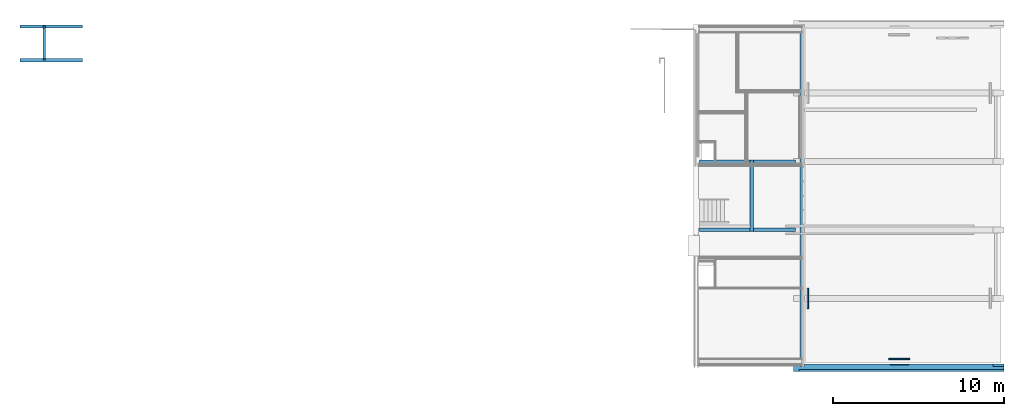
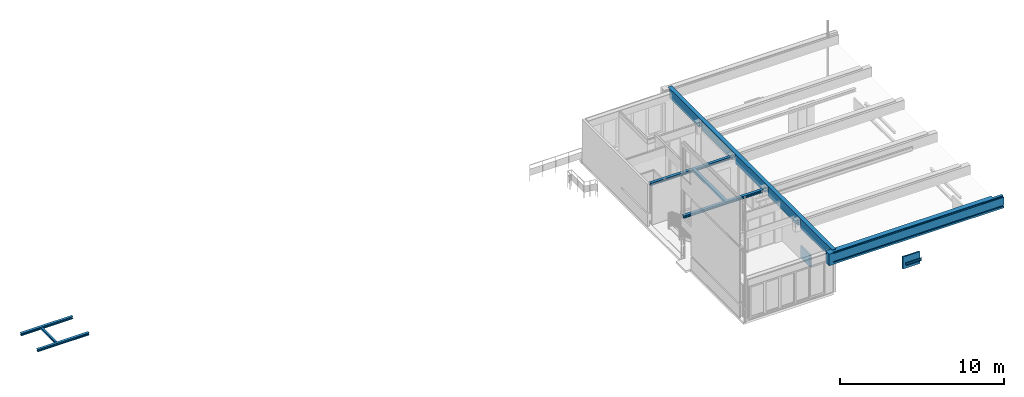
# One storey, part 1 of 13: 11 beams, 4 openings.
"""IFC2X3 building model written with IfcOpenShell, lengths in millimetres."""

from ifc_helpers import new_model, entity, si_unit, converted_unit, derived_unit, money_unit, direction, frame, origin_with_axes, place, context, subcontext, project, spatial, faceted_brep, material, type_object, element, save


model = new_model("IFC2X3")

# Units and contexts
model_context = context("Model", 3, precision=0.01, world=origin_with_axes(), true_north=direction((0.0, 1.0)))
body_context = subcontext(model_context, "Body", "Model", "MODEL_VIEW")
ifc_project = project(units=[si_unit("LENGTHUNIT", "METRE", prefix="MILLI"), si_unit("AREAUNIT", "SQUARE_METRE"), si_unit("VOLUMEUNIT", "CUBIC_METRE"), converted_unit("PLANEANGLEUNIT", "DEGREE", entity("IfcPlaneAngleMeasure", 0.0174532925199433), si_unit("PLANEANGLEUNIT", "RADIAN"), dimensions=[0, 0, 0, 0, 0, 0, 0]), money_unit("EUR"), converted_unit("TIMEUNIT", "Year", entity("IfcTimeMeasure", 31557600.0), si_unit("TIMEUNIT", "SECOND"), dimensions=[0, 0, 1, 0, 0, 0, 0]), si_unit("MASSUNIT", "GRAM", prefix="KILO"), si_unit("THERMODYNAMICTEMPERATUREUNIT", "DEGREE_CELSIUS"), si_unit("LUMINOUSINTENSITYUNIT", "LUMEN"), si_unit("ENERGYUNIT", "JOULE", prefix="MEGA"), derived_unit("THERMALCONDUCTANCEUNIT", [(si_unit("POWERUNIT", "WATT"), 1), (si_unit("LENGTHUNIT", "METRE"), -1), (si_unit("THERMODYNAMICTEMPERATUREUNIT", "KELVIN"), -1)]), derived_unit("SPECIFICHEATCAPACITYUNIT", [(si_unit("ENERGYUNIT", "JOULE"), 1), (si_unit("MASSUNIT", "GRAM", prefix="KILO"), -1), (si_unit("THERMODYNAMICTEMPERATUREUNIT", "KELVIN"), -1)]), derived_unit("MASSDENSITYUNIT", [(si_unit("MASSUNIT", "GRAM", prefix="KILO"), 1), (si_unit("VOLUMEUNIT", "CUBIC_METRE"), -1)])], contexts=[model_context])

# Site, building, storey
site_placement = place(None, origin_with_axes())
site = spatial("IfcSite", under=ifc_project, at=site_placement, Name="<site naam>", CompositionType="ELEMENT")
building_placement = place(site_placement, origin_with_axes())
building = spatial("IfcBuilding", under=site, at=building_placement, Name="<Naam gebouw>", CompositionType="ELEMENT")
storey_placement = place(building_placement, frame((0.0, 0.0, 3188.0), z_axis=(0.0, 0.0, 1.0), x_axis=(1.0, 0.0, 0.0)))
storey = spatial("IfcBuildingStorey", under=building, at=storey_placement, Name="01 1e tussenverdieping", CompositionType="ELEMENT", Elevation=3188.0)

# Beam
ifc_material_1 = material(Name="staal C")
beam_type_1 = type_object("IfcBeamType", Name="Profiel H algemeen 140 x 133", PredefinedType="BEAM")
beam_1_placement = place(storey_placement, frame((13894.99999999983, 19900.00000799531, 845.4993932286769), z_axis=(0.0, 0.0, 1.0), x_axis=(-1.0, 0.0, 0.0)))
element("IfcBeam", 1, at=beam_1_placement, inside=storey, type_object=beam_type_1, material=ifc_material_1, Name="28_Balk_Profiel", ObjectType="BEAM", context=body_context, shape_type="Brep", body=[
    faceted_brep([(70.00000000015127, 95.39873896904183, 66.50062088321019), (70.00000000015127, 1895.398734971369, 66.50062088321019), (-70.00000000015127, 1895.398734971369, 66.50062088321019), (-70.00000000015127, 95.39873896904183, 66.50062088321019), (70.00000000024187, 95.39873697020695, 58.00060676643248), (70.00000000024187, 1895.398734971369, 58.00060676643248), (-2.750000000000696, 1895.398734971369, 58.00060676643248), (-70.00000000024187, 1895.398734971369, 58.00060676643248), (2.74999999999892, 1895.398734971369, 58.00060676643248), (2.74999999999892, 1895.398736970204, 57.00051043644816), (-2.750000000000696, 1895.398736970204, 57.00051043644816), (-70.00000000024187, 95.39873697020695, 58.00060676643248), (2.750000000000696, 95.39873697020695, 58.00060676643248), (-2.750000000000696, 95.39873697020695, 58.00060676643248), (-2.750000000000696, 95.39873697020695, 57.00051043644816), (2.74999999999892, 95.39873697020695, 57.00051043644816), (2.74999999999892, 1980.000015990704, 57.00051043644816), (2.74999999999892, 8.398728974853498, 57.00051043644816), (2.750000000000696, 8.398728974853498, -58.00060676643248), (2.74999999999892, 1980.000015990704, -58.00060676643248), (-2.750000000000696, 1980.000015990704, 57.00051043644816), (-2.750000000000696, 1980.000015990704, -58.00060676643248), (-2.750000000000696, 8.398728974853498, -58.00060676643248), (-2.750000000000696, 8.398728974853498, 57.00051043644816), (-70.00000000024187, 8.398728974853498, -58.00060676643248), (-70.00000000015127, 8.398728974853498, -66.50060677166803), (70.00000000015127, 8.398728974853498, -66.50060677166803), (70.00000000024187, 8.398728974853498, -58.00060676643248), (70.00000000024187, 1980.000015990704, -58.00060676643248), (70.00000000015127, 1980.000015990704, -66.50060677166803), (-70.00000000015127, 1980.000015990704, -66.50060677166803), (-70.00000000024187, 1980.000015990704, -58.00060676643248)], [[[0, 1, 2, 3]], [[4, 5, 1, 0]], [[6, 7, 2, 1, 5, 8, 9, 10]], [[3, 2, 7, 11]], [[12, 4, 0, 3, 11, 13, 14, 15]], [[12, 8, 5, 4]], [[11, 7, 6, 13]], [[16, 9, 8, 12, 15, 17, 18, 19]], [[16, 20, 10, 9]], [[6, 10, 20, 21, 22, 23, 14, 13]], [[17, 15, 14, 23]], [[17, 23, 22, 24, 25, 26, 27, 18]], [[28, 19, 18, 27]], [[21, 20, 16, 19, 28, 29, 30, 31]], [[21, 31, 24, 22]], [[31, 30, 25, 24]], [[30, 29, 26, 25]], [[29, 28, 27, 26]]]),
    faceted_brep([(-2.750000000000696, 0.0, -58.00060676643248), (-2.750000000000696, 2.39872897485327, -58.00060676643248), (-70.00000000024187, 2.39872897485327, -58.00060676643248), (-70.00000000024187, 0.0, -58.00060676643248), (-2.750000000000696, 0.0, 57.00051043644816), (-2.750000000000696, 2.39872897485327, 57.00051043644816), (70.00000000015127, 2.39872897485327, -66.50060677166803), (-70.00000000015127, 2.39872897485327, -66.50060677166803), (2.74999999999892, 2.39872897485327, 57.00051043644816), (2.750000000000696, 2.39872897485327, -58.00060676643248), (70.00000000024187, 2.39872897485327, -58.00060676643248), (-70.00000000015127, 0.0, -66.50060677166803), (2.750000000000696, 0.0, -58.00060676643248), (2.750000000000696, 0.0, 57.00051043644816), (70.00000000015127, 0.0, -66.50060677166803), (70.00000000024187, 0.0, -58.00060676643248)], [[[0, 1, 2, 3]], [[4, 5, 1, 0]], [[6, 7, 2, 1, 5, 8, 9, 10]], [[3, 2, 7, 11]], [[12, 13, 4, 0, 3, 11, 14, 15]], [[8, 5, 4, 13]], [[11, 7, 6, 14]], [[9, 8, 13, 12]], [[15, 10, 9, 12]], [[14, 6, 10, 15]]]),
])

# Beam, openings
ifc_material_2 = material(Name="beton_gewapend C")
beam_type_2 = type_object("IfcBeamType", Name="beton_gewapend C 280 x 700", PredefinedType="BEAM")
beam_2_placement = place(storey_placement, frame((58325.00000000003, 19999.99999999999, 3187.0), z_axis=(0.0, 0.0, 1.0), x_axis=(-1.0, 0.0, 0.0)))
beam_2 = element("IfcBeam", 2, at=beam_2_placement, inside=storey, type_object=beam_type_2, material=ifc_material_2, Name="28_Balk_beton_gewapend", ObjectType="BEAM", context=body_context, shape_type="Brep", body=[
    faceted_brep([(0.0, 4970.499999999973, -700.0000000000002), (0.0, 4174.999999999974, -700.0000000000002), (0.0, 4174.999999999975, -30.00000000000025), (0.0, 3824.999999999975, -30.00000000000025), (0.0, 3824.999999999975, -700.0000000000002), (0.0, 175.0000000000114, -700.0000000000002), (0.0, 175.0000000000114, -30.00000000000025), (0.0, 0.0, -30.00000000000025), (0.0, 0.0, 0.0), (0.0, 19989.08932188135, 0.0), (0.0, 19989.08932188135, -30.00000000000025), (0.0, 19824.99999999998, -30.00000000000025), (0.0, 19824.99999999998, -700.0000000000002), (0.0, 16174.99999999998, -700.0000000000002), (0.0, 16174.99999999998, -30.00000000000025), (0.0, 15824.99999999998, -30.00000000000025), (0.0, 15824.99999999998, -700.0000000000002), (0.0, 12174.99999999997, -700.0000000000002), (0.0, 12174.99999999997, -30.00000000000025), (0.0, 11824.99999999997, -30.00000000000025), (0.0, 11824.99999999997, -700.0000000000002), (0.0, 8174.999999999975, -700.0000000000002), (0.0, 8174.999999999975, -30.00000000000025), (0.0, 7824.999999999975, -30.00000000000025), (0.0, 7824.999999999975, -700.0000000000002), (0.0, 4979.999999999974, -700.0000000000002), (0.0, 4979.999999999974, -676.000000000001), (0.0, 5085.249999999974, -676.000000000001), (0.0, 5085.249999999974, -660.000000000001), (0.0, 4865.249999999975, -660.000000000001), (0.0, 4865.249999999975, -676.000000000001), (0.0, 4970.499999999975, -676.000000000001), (280.0000000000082, 7824.999999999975, -700.0000000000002), (280.0000000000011, 4174.999999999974, -700.0000000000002), (7.217155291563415, 4970.499999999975, -700.0000000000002), (7.217155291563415, 4979.999999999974, -700.0000000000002), (280.0000000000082, 4174.999999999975, -30.00000000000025), (280.0000000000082, 3824.999999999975, -30.00000000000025), (280.0000000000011, 3824.999999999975, -700.0000000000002), (280.0000000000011, 175.0000000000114, -700.0000000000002), (280.0000000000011, 175.0000000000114, -30.00000000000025), (280.0000000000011, 0.0, -30.00000000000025), (280.0000000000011, 0.0, 0.0), (280.0000000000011, 19989.08932188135, 0.0), (280.0000000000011, 19989.08932188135, -30.00000000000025), (280.0000000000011, 19824.99999999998, -30.00000000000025), (280.0000000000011, 19824.99999999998, -700.0000000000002), (280.0000000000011, 16174.99999999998, -700.0000000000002), (280.0000000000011, 16174.99999999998, -30.00000000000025), (280.0000000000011, 15824.99999999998, -30.00000000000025), (280.0000000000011, 15824.99999999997, -700.0000000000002), (280.0000000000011, 12174.99999999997, -700.0000000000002), (280.0000000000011, 12174.99999999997, -30.00000000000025), (280.0000000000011, 11824.99999999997, -30.00000000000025), (280.0000000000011, 11824.99999999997, -700.0000000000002), (280.0000000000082, 8174.999999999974, -700.0000000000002), (280.0000000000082, 8174.999999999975, -30.00000000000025), (280.0000000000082, 7824.999999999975, -30.00000000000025), (7.217155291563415, 4979.999999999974, -676.000000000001), (7.217155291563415, 5085.249999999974, -676.000000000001), (7.217155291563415, 5085.249999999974, -660.000000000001), (7.217155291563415, 4865.249999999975, -660.000000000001), (7.217155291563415, 4865.249999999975, -676.000000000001), (7.217155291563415, 4970.499999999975, -676.000000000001)], [[[0, 1, 2, 3, 4, 5, 6, 7, 8, 9, 10, 11, 12, 13, 14, 15, 16, 17, 18, 19, 20, 21, 22, 23, 24, 25, 26, 27, 28, 29, 30, 31]], [[32, 33, 1, 0, 34, 35, 25, 24]], [[36, 2, 1, 33]], [[37, 3, 2, 36]], [[38, 4, 3, 37]], [[5, 4, 38, 39]], [[39, 40, 6, 5]], [[6, 40, 41, 7]], [[42, 8, 7, 41]], [[43, 9, 8, 42]], [[43, 44, 10, 9]], [[45, 11, 10, 44]], [[46, 12, 11, 45]], [[47, 13, 12, 46]], [[14, 13, 47, 48]], [[15, 14, 48, 49]], [[16, 15, 49, 50]], [[17, 16, 50, 51]], [[17, 51, 52, 18]], [[18, 52, 53, 19]], [[19, 53, 54, 20]], [[20, 54, 55, 21]], [[55, 56, 22, 21]], [[56, 57, 23, 22]], [[57, 32, 24, 23]], [[25, 35, 58, 26]], [[26, 58, 59, 27]], [[27, 59, 60, 28]], [[28, 60, 61, 29]], [[29, 61, 62, 30]], [[30, 62, 63, 31]], [[31, 63, 34, 0]], [[37, 36, 33, 32, 57, 56, 55, 54, 53, 52, 51, 50, 49, 48, 47, 46, 45, 44, 43, 42, 41, 40, 39, 38]], [[34, 63, 62, 61, 60, 59, 58, 35]]]),
])
opening_1_placement = place(beam_2_placement, frame((58325.00000000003, 19999.99999999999, -6375.0), z_axis=(0.0, 0.0, 1.0), x_axis=(-1.0, 0.0, 0.0)))
element("IfcOpeningElement", 3, at=opening_1_placement, cuts=beam_2, Name="28_pompput_", context=body_context, shape_type="Brep", body=[
    faceted_brep([(58275.00000000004, 10310.00000000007, 5780.0), (58275.00000000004, 10310.00000000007, 5905.0), (58605.00000000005, 10310.00000000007, 5905.0), (58605.00000000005, 10310.00000000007, 5780.0), (58275.00000000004, 9690.000000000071, 5780.0), (58275.00000000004, 9690.000000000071, 5905.0), (58605.00000000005, 9690.000000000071, 5905.0), (58605.00000000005, 9690.000000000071, 5780.0)], [[[0, 1, 2, 3]], [[0, 4, 5, 1]], [[1, 5, 6, 2]], [[3, 2, 6, 7]], [[4, 0, 3, 7]], [[5, 4, 7, 6]]]),
])
opening_2_placement = place(beam_2_placement, frame((58325.00000000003, 19999.99999999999, -6375.0), z_axis=(0.0, 0.0, 1.0), x_axis=(-1.0, 0.0, 0.0)))
element("IfcOpeningElement", 4, at=opening_2_placement, cuts=beam_2, Name="28_pompput_", context=body_context, shape_type="Brep", body=[
    faceted_brep([(58275.00000000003, 6310.000000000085, 5780.0), (58275.00000000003, 6310.000000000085, 5905.0), (58605.00000000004, 6310.000000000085, 5905.0), (58605.00000000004, 6310.000000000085, 5780.0), (58275.00000000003, 5690.000000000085, 5780.0), (58275.00000000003, 5690.000000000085, 5905.0), (58605.00000000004, 5690.000000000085, 5905.0), (58605.00000000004, 5690.000000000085, 5780.0)], [[[0, 1, 2, 3]], [[0, 4, 5, 1]], [[1, 5, 6, 2]], [[3, 2, 6, 7]], [[4, 0, 3, 7]], [[5, 4, 7, 6]]]),
])
opening_3_placement = place(beam_2_placement, frame((58325.00000000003, 19999.99999999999, -6375.0), z_axis=(0.0, 0.0, 1.0), x_axis=(-1.0, 0.0, 0.0)))
element("IfcOpeningElement", 5, at=opening_3_placement, cuts=beam_2, Name="28_pompput_", context=body_context, shape_type="Brep", body=[
    faceted_brep([(58275.00000000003, 2310.000000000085, 5780.0), (58275.00000000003, 2310.000000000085, 5905.0), (58605.00000000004, 2310.000000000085, 5905.0), (58605.00000000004, 2310.000000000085, 5780.0), (58275.00000000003, 1690.000000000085, 5780.0), (58275.00000000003, 1690.000000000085, 5905.0), (58605.00000000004, 1690.000000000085, 5905.0), (58605.00000000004, 1690.000000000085, 5780.0)], [[[0, 1, 2, 3]], [[0, 4, 5, 1]], [[1, 5, 6, 2]], [[3, 2, 6, 7]], [[4, 0, 3, 7]], [[5, 4, 7, 6]]]),
])
opening_4_placement = place(beam_2_placement, frame((58325.00000000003, 19999.99999999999, -6375.0), z_axis=(0.0, 0.0, 1.0), x_axis=(-1.0, 0.0, 0.0)))
element("IfcOpeningElement", 6, at=opening_4_placement, cuts=beam_2, Name="28_pompput_", context=body_context, shape_type="Brep", body=[
    faceted_brep([(58275.00000000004, 14310.00000000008, 5780.0), (58275.00000000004, 14310.00000000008, 5905.0), (58605.00000000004, 14310.00000000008, 5905.0), (58605.00000000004, 14310.00000000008, 5780.0), (58275.00000000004, 13690.00000000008, 5780.0), (58275.00000000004, 13690.00000000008, 5905.0), (58605.00000000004, 13690.00000000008, 5905.0), (58605.00000000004, 13690.00000000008, 5780.0)], [[[0, 1, 2, 3]], [[0, 4, 5, 1]], [[1, 5, 6, 2]], [[3, 2, 6, 7]], [[4, 0, 3, 7]], [[5, 4, 7, 6]]]),
])

# Beams
beam_type_3 = type_object("IfcBeamType", Name="beton_gewapend C 440 x 850", PredefinedType="BEAM")
beam_3_placement = place(storey_placement, frame((57675.00000000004, 175.0000000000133, 3157.0), z_axis=(0.0, 0.0, 1.0), x_axis=(0.0, -1.0, 0.0)))
element("IfcBeam", 7, at=beam_3_placement, inside=storey, type_object=beam_type_3, material=ifc_material_2, Name="28_Balk_beton_gewapend", ObjectType="BEAM", context=body_context, shape_type="Brep", body=[
    faceted_brep([(0.0, 11649.99999999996, -30.00000000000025), (0.0, 649.9999999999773, -30.00000000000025), (0.0, 649.9999999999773, -150.0000000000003), (0.0, 12299.99999999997, -150.0000000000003), (0.0, 12299.99999999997, -850.0000000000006), (0.0, 0.0, -850.0000000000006), (0.0, 0.0, -180.0000000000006), (0.0, 369.9997832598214, -180.0000000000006), (0.0, 369.9997832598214, -30.00000000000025), (0.0, 0.0, -30.00000000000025), (0.0, 0.0, 0.0), (0.0, 11649.99999999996, 0.0), (164.0893218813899, 649.9999999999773, -30.00000000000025), (164.0893218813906, 11649.99999999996, -30.00000000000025), (164.0893218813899, 649.9999999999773, -150.0000000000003), (164.0893218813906, 12299.99999999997, -150.0000000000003), (164.0893218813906, 12299.99999999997, 0.0), (339.9999928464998, 12299.99999999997, 0.0), (339.9999928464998, 12299.99999999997, -50.00000012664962), (440.0000042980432, 12299.99999999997, -50.00000012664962), (440.0000042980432, 12299.99999999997, -640.0000385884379), (410.00000199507, 12299.99999999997, -640.0000385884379), (410.00000199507, 12299.99999999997, -610.0000280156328), (379.9999996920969, 12299.99999999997, -610.0000280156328), (379.9999996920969, 12299.99999999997, -659.9999960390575), (324.089321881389, 12299.99999999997, -659.9999960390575), (324.0893218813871, 12299.99999999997, -850.0000000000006), (324.0893329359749, 499.9999889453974, -850.0000000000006), (174.9999999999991, 499.9999999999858, -850.0000000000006), (174.9999999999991, 434.9999999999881, -850.0000000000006), (389.0893166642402, 435.0000052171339, -850.0000000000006), (389.0893218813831, 12299.99999999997, -850.0000000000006), (439.9999999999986, 12299.99999999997, -850.0000000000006), (439.9999999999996, 0.0, -850.0000000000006), (124.9546346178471, 0.0, -30.00000000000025), (124.9546346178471, 0.0, -180.0000000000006), (439.9999999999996, 0.0, 0.0), (124.9546346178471, 369.9997832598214, -180.0000000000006), (124.9546346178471, 369.9997832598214, -30.00000000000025), (164.0893218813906, 11649.99999999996, 0.0), (439.9999999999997, 324.9999999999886, 0.0), (339.9999928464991, 324.9999999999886, 0.0), (339.9999928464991, 324.9999999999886, -50.00000012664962), (440.0000042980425, 324.9999999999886, -50.00000012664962), (440.0000042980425, 324.9999999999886, -640.0000385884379), (440.0000042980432, 12299.99999999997, -709.9999375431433), (440.0000042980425, 324.9999999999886, -709.9999375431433), (440.0000042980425, 324.9999999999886, -680.000014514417), (410.0000019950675, 324.9999999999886, -640.0000385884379), (410.0000019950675, 324.9999999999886, -610.0000280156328), (379.9999996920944, 324.9999999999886, -610.0000280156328), (379.9999996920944, 324.9999999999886, -709.9999375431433), (379.9999996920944, 435.0000052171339, -709.9999375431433), (379.9999996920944, 435.0000049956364, -659.9999960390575), (174.9999999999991, 434.9999999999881, -659.9999960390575), (174.9999999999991, 499.9999999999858, -659.9999960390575), (324.0893329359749, 499.9999889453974, -659.9999960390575), (389.0893166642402, 435.0000052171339, -709.9999375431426), (389.0893218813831, 12299.99999999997, -709.9999375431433)], [[[0, 1, 2, 3, 4, 5, 6, 7, 8, 9, 10, 11]], [[12, 1, 0, 13]], [[14, 2, 1, 12]], [[14, 15, 3, 2]], [[3, 15, 16, 17, 18, 19, 20, 21, 22, 23, 24, 25, 26, 4]], [[27, 28, 29, 30, 31, 32, 33, 5, 4, 26]], [[34, 35, 6, 5, 33, 36, 10, 9]], [[37, 7, 6, 35]], [[38, 8, 7, 37]], [[34, 9, 8, 38]], [[16, 39, 11, 10, 36, 40, 41, 17]], [[39, 13, 0, 11]], [[16, 15, 14, 12, 13, 39]], [[17, 41, 42, 18]], [[18, 42, 43, 19]], [[44, 20, 19, 43, 40, 36, 33, 32, 45, 46, 47]], [[20, 44, 48, 21]], [[21, 48, 49, 22]], [[22, 49, 50, 23]], [[51, 52, 53, 24, 23, 50]], [[25, 24, 53, 54, 55, 56]], [[26, 25, 56, 27]], [[56, 55, 28, 27]], [[55, 54, 29, 28]], [[52, 57, 30, 29, 54, 53]], [[58, 31, 30, 57]], [[45, 32, 31, 58]], [[37, 35, 34, 38]], [[40, 43, 42, 41]], [[45, 58, 57, 52, 51, 46]], [[50, 49, 48, 44, 47, 46, 51]]]),
])
beam_type_4 = type_object("IfcBeamType", Name="Profiel H algemeen 200 x 200", PredefinedType="BEAM")
beam_4_placement = place(storey_placement, frame((55242.0983582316, 8000.000000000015, 2877.013965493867), z_axis=(0.0, 0.0, 1.0), x_axis=(1.0, 0.0, 0.0)))
element("IfcBeam", 8, at=beam_4_placement, inside=storey, type_object=beam_type_4, material=ifc_material_1, Name="28_Balk_Profiel", ObjectType="BEAM", context=body_context, shape_type="Brep", body=[
    faceted_brep([(-100.0000031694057, 3900.000007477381, -100.000004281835), (-100.0000031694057, 100.0000031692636, -100.000004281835), (-100.0000031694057, 100.0000030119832, -85.01396590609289), (-100.0000031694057, 4.500000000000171, -85.01396590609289), (-100.0000031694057, 4.500000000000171, -84.99999684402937), (-100.0000031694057, 3995.500010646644, -84.99999684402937), (-100.0000031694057, 3995.500010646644, -85.01396590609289), (-100.0000031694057, 3900.000007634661, -85.01396590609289), (100.0000031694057, 100.0000031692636, -100.000004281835), (100.0000031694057, 3900.000007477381, -100.000004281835), (100.0000031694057, 100.0000030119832, -85.01396590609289), (100.0000031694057, 4.500000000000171, -85.01396590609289), (-4.499999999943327, 4.500000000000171, -84.99999684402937), (100.0000031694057, 4.500000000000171, -84.99999684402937), (4.499999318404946, 4.500000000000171, -84.99999684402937), (4.499999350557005, 4.500000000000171, 84.98602778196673), (-4.499999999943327, 4.500000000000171, 84.98602778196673), (-4.499999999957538, 3995.500010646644, -84.99999684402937), (100.0000031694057, 3995.500010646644, -85.01396590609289), (-4.499999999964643, 3995.500010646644, 84.98602778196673), (4.499999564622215, 3995.500010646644, 84.98602778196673), (4.499999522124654, 3995.500010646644, -84.99999684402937), (100.0000031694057, 3995.500010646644, -84.99999684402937), (100.0000031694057, 3900.000007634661, -85.01396590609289), (4.499999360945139, 100.0000030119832, 84.98602778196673), (4.499999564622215, 3900.000007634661, 84.98602778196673), (4.499999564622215, 3900.000007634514, 84.99999684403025), (4.499999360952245, 100.0000030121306, 84.99999684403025), (-4.499999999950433, 100.0000030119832, 84.98602778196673), (-4.500000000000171, 100.0000030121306, 84.99999684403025), (-4.499999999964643, 3900.000007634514, 84.99999684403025), (-4.499999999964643, 3900.000007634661, 84.98602778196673), (-100.000003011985, 3900.000007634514, 84.99999684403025), (-100.0000031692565, 3900.000007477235, 99.98603521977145), (100.0000031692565, 3900.000007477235, 99.98603521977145), (100.000003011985, 3900.000007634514, 84.99999684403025), (100.000003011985, 100.0000030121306, 84.99999684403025), (-100.0000031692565, 100.0000031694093, 99.98603521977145), (-100.000003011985, 100.0000030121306, 84.99999684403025), (100.0000031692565, 100.0000031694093, 99.98603521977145), (-100.0000031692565, -100.0000031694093, 99.98603521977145), (-100.0000031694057, -100.0000031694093, 100.000004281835), (-100.0000031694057, 4100.000013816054, 100.000004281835), (-100.0000031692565, 4100.000013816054, 99.98603521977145), (100.0000031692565, 4100.000013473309, 99.98603521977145), (100.0000031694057, 4100.000013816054, 100.000004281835), (100.0000031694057, -100.0000031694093, 100.000004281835), (100.0000031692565, -100.0000028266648, 99.98603521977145)], [[[0, 1, 2, 3, 4, 5, 6, 7]], [[8, 1, 0, 9]], [[10, 2, 1, 8]], [[11, 3, 2, 10]], [[12, 4, 3, 11, 13, 14, 15, 16]], [[5, 4, 12, 17]], [[18, 6, 5, 17, 19, 20, 21, 22]], [[23, 7, 6, 18]], [[9, 0, 7, 23]], [[11, 10, 8, 9, 23, 18, 22, 13]], [[22, 21, 14, 13]], [[24, 15, 14, 21, 20, 25, 26, 27]], [[28, 16, 15, 24]], [[19, 17, 12, 16, 28, 29, 30, 31]], [[19, 31, 25, 20]], [[31, 30, 32, 33, 34, 35, 26, 25]], [[36, 27, 26, 35]], [[37, 38, 29, 28, 24, 27, 36, 39]], [[30, 29, 38, 32]], [[38, 37, 40, 41, 42, 43, 33, 32]], [[34, 33, 43, 44]], [[45, 46, 47, 39, 36, 35, 34, 44]], [[47, 40, 37, 39]], [[46, 41, 40, 47]], [[45, 42, 41, 46]], [[44, 43, 42, 45]]]),
])
beam_5_placement = place(storey_placement, frame((57786.4861307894, 8000.000000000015, 2876.999996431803), z_axis=(0.0, 0.0, 1.0), x_axis=(0.0, 1.0, 0.0)))
element("IfcBeam", 9, at=beam_5_placement, inside=storey, type_object=beam_type_4, material=ifc_material_1, Name="28_Balk_Profiel", ObjectType="BEAM", context=body_context, shape_type="Brep", body=[
    faceted_brep([(-100.0000031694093, 0.0, -100.000004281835), (-100.0000031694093, 5611.486130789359, -100.000004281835), (100.0000031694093, 5611.486130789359, -100.000004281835), (100.0000031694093, 0.0, -100.000004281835), (-100.0000030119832, 0.0, -84.99999684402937), (-100.0000030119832, 5611.486130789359, -84.99999684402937), (-4.499999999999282, 5611.486130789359, -84.99999684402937), (-4.499999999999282, 5611.486130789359, 84.99999684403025), (-100.0000030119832, 5611.486130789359, 84.99999684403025), (-100.0000031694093, 5611.486130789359, 100.000004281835), (100.0000031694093, 5611.486130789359, 100.000004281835), (100.0000030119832, 5611.486130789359, 84.99999684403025), (4.500000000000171, 5611.486130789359, 84.99999684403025), (4.500000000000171, 5611.486130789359, -84.99999684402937), (100.0000030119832, 5611.486130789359, -84.99999684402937), (100.0000030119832, 0.0, -84.99999684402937), (4.500000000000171, 0.0, -84.99999684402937), (4.500000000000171, 0.0, 84.99999684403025), (100.0000030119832, 0.0, 84.99999684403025), (100.0000031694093, 0.0, 100.000004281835), (-100.0000031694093, 0.0, 100.000004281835), (-100.0000030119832, 0.0, 84.99999684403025), (-4.500000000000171, 0.0, 84.99999684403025), (-4.500000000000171, 0.0, -84.99999684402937)], [[[0, 1, 2, 3]], [[4, 5, 1, 0]], [[2, 1, 5, 6, 7, 8, 9, 10, 11, 12, 13, 14]], [[3, 2, 14, 15]], [[4, 0, 3, 15, 16, 17, 18, 19, 20, 21, 22, 23]], [[23, 6, 5, 4]], [[22, 7, 6, 23]], [[21, 8, 7, 22]], [[20, 9, 8, 21]], [[19, 10, 9, 20]], [[18, 11, 10, 19]], [[17, 12, 11, 18]], [[16, 13, 12, 17]], [[15, 14, 13, 16]]]),
])
beam_6_placement = place(storey_placement, frame((57786.4861307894, 12000.00001064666, 2876.999996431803), z_axis=(0.0, 0.0, 1.0), x_axis=(0.0, 1.0, 0.0)))
element("IfcBeam", 10, at=beam_6_placement, inside=storey, type_object=beam_type_4, material=ifc_material_1, Name="28_Balk_Profiel", ObjectType="BEAM", context=body_context, shape_type="Brep", body=[
    faceted_brep([(-100.0000031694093, 0.0, -100.000004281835), (-100.0000031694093, 5611.486130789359, -100.000004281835), (100.0000031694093, 5611.486130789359, -100.000004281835), (100.0000031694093, 0.0, -100.000004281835), (-100.0000030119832, 0.0, -84.99999684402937), (-100.0000030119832, 5611.486130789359, -84.99999684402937), (-4.500000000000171, 5611.486130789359, -84.99999684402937), (-4.500000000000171, 5611.486130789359, 84.99999684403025), (-100.0000030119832, 5611.486130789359, 84.99999684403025), (-100.0000031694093, 5611.486130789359, 100.000004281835), (100.0000031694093, 5611.486130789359, 100.000004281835), (100.0000030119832, 5611.486130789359, 84.99999684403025), (4.500000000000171, 5611.486130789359, 84.99999684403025), (4.500000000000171, 5611.486130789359, -84.99999684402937), (100.0000030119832, 5611.486130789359, -84.99999684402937), (100.0000030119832, 0.0, -84.99999684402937), (4.500000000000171, 0.0, -84.99999684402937), (4.500000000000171, 0.0, 84.99999684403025), (100.0000030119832, 0.0, 84.99999684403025), (100.0000031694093, 0.0, 100.000004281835), (-100.0000031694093, 0.0, 100.000004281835), (-100.0000030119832, 0.0, 84.99999684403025), (-4.500000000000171, 0.0, 84.99999684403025), (-4.500000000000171, 0.0, -84.99999684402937)], [[[0, 1, 2, 3]], [[4, 5, 1, 0]], [[2, 1, 5, 6, 7, 8, 9, 10, 11, 12, 13, 14]], [[3, 2, 14, 15]], [[4, 0, 3, 15, 16, 17, 18, 19, 20, 21, 22, 23]], [[23, 6, 5, 4]], [[22, 7, 6, 23]], [[21, 8, 7, 22]], [[20, 9, 8, 21]], [[19, 10, 9, 20]], [[18, 11, 10, 19]], [[17, 12, 11, 18]], [[16, 13, 12, 17]], [[15, 14, 13, 16]]]),
])
ifc_material_3 = material(Name="ALG - ALGEMEEN")
beam_type_5 = type_object("IfcBeamType", Name="ALG - ALGEMEEN 100 x 900", PredefinedType="BEAM")
beam_7_placement = place(storey_placement, frame((58467.43408431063, 4600.000000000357, 586.9997884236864), z_axis=(0.0, 0.0, 1.0), x_axis=(-1.0, 0.0, 0.0)))
element("IfcBeam", 11, at=beam_7_placement, inside=storey, type_object=beam_type_5, material=ifc_material_3, Name="77_Balk_ALG", ObjectType="BEAM", context=body_context, shape_type="Brep", body=[
    faceted_brep([(0.0, 0.0, 0.0), (0.0, 1200.000000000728, 0.0), (-100.0000020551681, 1200.000000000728, 0.0), (-100.0000020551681, 0.0, 0.0), (0.0, 0.0, -899.9995791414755), (0.0, 1200.000000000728, -899.9995791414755), (-100.0000020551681, 1200.000000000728, -899.9995791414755), (-100.0000020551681, 0.0, -899.9995791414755)], [[[0, 1, 2, 3]], [[4, 5, 1, 0]], [[2, 1, 5, 6]], [[3, 2, 6, 7]], [[4, 0, 3, 7]], [[7, 6, 5, 4]]]),
])
beam_8_placement = place(storey_placement, frame((64454.84363037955, 415.9107217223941, 586.9997884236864), z_axis=(0.0, 0.0, 1.0), x_axis=(0.0, 1.0, 0.0)))
element("IfcBeam", 12, at=beam_8_placement, inside=storey, type_object=beam_type_5, material=ifc_material_3, Name="77_Balk_ALG", ObjectType="BEAM", context=body_context, shape_type="Brep", body=[
    faceted_brep([(0.0, 0.0, -899.9995791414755), (0.0, 1200.000000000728, -899.9995791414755), (100.000002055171, 1200.000000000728, -899.9995791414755), (100.0000020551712, 0.0, -899.9995791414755), (0.0, 0.0, 0.0), (0.0, 1200.000000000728, 0.0), (100.0000020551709, 1200.000000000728, 0.0), (100.0000020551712, 0.0, 0.0)], [[[0, 1, 2, 3]], [[4, 5, 1, 0]], [[2, 1, 5, 6]], [[3, 2, 6, 7]], [[4, 0, 3, 7]], [[7, 6, 5, 4]]]),
])
ifc_material_4 = material(Name="staal")
beam_type_6 = type_object("IfcBeamType", Name="Profiel UPN algemeen 70 x 180", PredefinedType="BEAM")
beam_9_placement = place(storey_placement, frame((64426.74999999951, 180.9107597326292, 299.0000070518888), z_axis=(0.0, 0.0, 1.0), x_axis=(0.0, 1.0, 0.0)))
element("IfcBeam", 13, at=beam_9_placement, inside=storey, type_object=beam_type_6, material=ifc_material_4, Name="28_Balk_Profiel", ObjectType="BEAM", context=body_context, shape_type="Brep", body=[
    faceted_brep([(-7.999999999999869, 0.0, -11.00000000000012), (-70.0003244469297, 0.0, -11.00000000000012), (-70.00032444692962, 1113.499999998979, -11.00000000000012), (-7.999999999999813, 1113.499999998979, -11.00000000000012), (0.0, 0.0, 0.0), (-70.00040555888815, 0.0, 0.0), (-7.999999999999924, 0.0, -169.0000143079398), (-70.00032444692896, 0.0, -169.0000143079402), (-70.00040555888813, 0.0, -180.0000145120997), (0.0, 0.0, -180.0000145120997), (-70.00040555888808, 1113.499999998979, 0.0), (-7.999999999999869, 1113.499999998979, -169.0000143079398), (0.0, 1113.499999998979, 0.0), (0.0, 1113.499999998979, -180.0000145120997), (-70.00040555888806, 1113.499999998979, -180.0000145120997), (-70.00032444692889, 1113.499999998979, -169.0000143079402)], [[[0, 1, 2, 3]], [[4, 5, 1, 0, 6, 7, 8, 9]], [[1, 5, 10, 2]], [[11, 3, 2, 10, 12, 13, 14, 15]], [[6, 0, 3, 11]], [[5, 4, 12, 10]], [[7, 6, 11, 15]], [[8, 7, 15, 14]], [[9, 8, 14, 13]], [[4, 9, 13, 12]]]),
])
beam_type_7 = type_object("IfcBeamType", Name="Profiel H algemeen 180 x 171", PredefinedType="BEAM")
for number, where, z_axis, x_axis, name in (
    (14, (12485.52948466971, 17914.60126302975, 826.4999294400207), (0.0, 0.0, 1.0), (0.0, -1.0, 0.0), "28_Balk_Profiel"),
    (15, (12485.52948466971, 19894.60127902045, 826.4999294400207), (0.0, 0.0, 1.0), (0.0, -1.0, 0.0), "28_Balk_Profiel"),
):
    element("IfcBeam", number, at=place(storey_placement, frame(where, z_axis=z_axis, x_axis=x_axis)), inside=storey, type_object=beam_type_7, material=ifc_material_1, Name=name, ObjectType="BEAM", context=body_context, shape_type="Brep", body=[
        faceted_brep([(90.00000799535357, 0.0, -75.99997422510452), (90.00000799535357, 3649.999999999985, -75.99997422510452), (3.000000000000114, 3649.999999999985, -75.99997422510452), (3.000000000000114, 0.0, -75.99997422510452), (90.00000999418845, 0.0, -85.50008467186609), (90.00000999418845, 3649.999999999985, -85.50008467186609), (-90.00000999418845, 3649.999999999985, -85.50008467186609), (-90.00000799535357, 3649.999999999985, -75.99997422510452), (-3.000000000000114, 3649.999999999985, -75.99997422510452), (-3.000000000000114, 3649.999999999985, 75.99997422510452), (-90.00000799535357, 3649.999999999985, 75.99997422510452), (-90.00000999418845, 3649.999999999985, 85.50008467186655), (90.00000999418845, 3649.999999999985, 85.50008467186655), (90.00000799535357, 3649.999999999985, 75.99997422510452), (3.000000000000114, 3649.999999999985, 75.99997422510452), (3.000000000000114, 0.0, 75.99997422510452), (90.00000799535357, 0.0, 75.99997422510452), (90.00000999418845, 0.0, 85.50008467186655), (-90.00000999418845, 0.0, 85.50008467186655), (-90.00000799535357, 0.0, 75.99997422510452), (-3.000000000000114, 0.0, 75.99997422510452), (-3.000000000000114, 0.0, -75.99997422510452), (-90.00000799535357, 0.0, -75.99997422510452), (-90.00000999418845, 0.0, -85.50008467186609)], [[[0, 1, 2, 3]], [[4, 5, 1, 0]], [[2, 1, 5, 6, 7, 8, 9, 10, 11, 12, 13, 14]], [[3, 2, 14, 15]], [[4, 0, 3, 15, 16, 17, 18, 19, 20, 21, 22, 23]], [[23, 6, 5, 4]], [[22, 7, 6, 23]], [[21, 8, 7, 22]], [[20, 9, 8, 21]], [[19, 10, 9, 20]], [[18, 11, 10, 19]], [[17, 12, 11, 18]], [[16, 13, 12, 17]], [[15, 14, 13, 16]]]),
    ])

save(model, "model.ifc")
